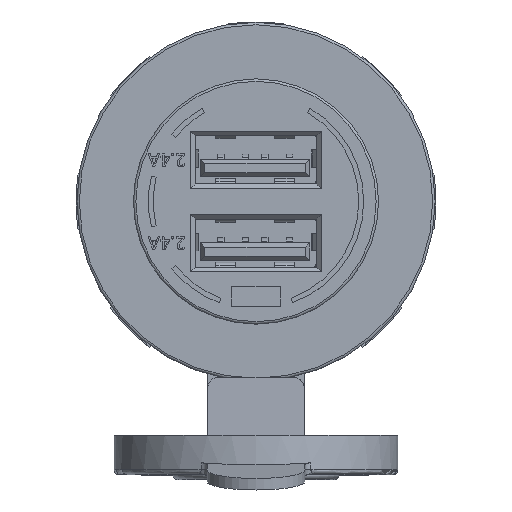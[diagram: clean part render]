
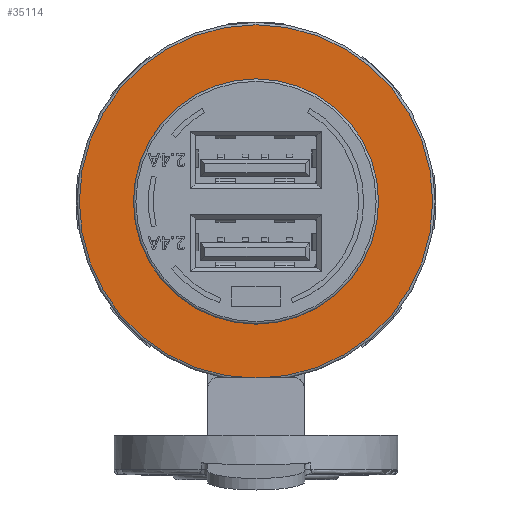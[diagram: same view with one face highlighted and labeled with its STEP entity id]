
A CAD part, top view. The second image highlights one B-rep face of the part: STEP entity #35114.
In plain terms, the highlighted planar face has unit normal (0, 0, 1) as drawn and (0, 0, -1) by its records, which use the part's own axes.
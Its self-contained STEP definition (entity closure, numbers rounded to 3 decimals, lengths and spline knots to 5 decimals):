
#962=FACE_BOUND('',#4695,.T.);
#1186=PLANE('',#37499);
#2671=FACE_OUTER_BOUND('',#4694,.T.);
#4694=EDGE_LOOP('',(#24707));
#4695=EDGE_LOOP('',(#24708));
#14790=CIRCLE('',#37445,0.71063);
#14791=CIRCLE('',#37447,0.49311);
#15586=VERTEX_POINT('',#49700);
#15587=VERTEX_POINT('',#49704);
#19047=EDGE_CURVE('',#15586,#15586,#14790,.T.);
#19048=EDGE_CURVE('',#15587,#15587,#14791,.T.);
#24707=ORIENTED_EDGE('',*,*,#19047,.T.);
#24708=ORIENTED_EDGE('',*,*,#19048,.F.);
#35114=ADVANCED_FACE('',(#2671,#962),#1186,.F.);
#37445=AXIS2_PLACEMENT_3D('',#49702,#40231,#40232);
#37447=AXIS2_PLACEMENT_3D('',#49705,#40235,#40236);
#37499=AXIS2_PLACEMENT_3D('',#51462,#40469,#40470);
#40231=DIRECTION('center_axis',(0.,0.,-1.));
#40232=DIRECTION('ref_axis',(1.,0.,0.));
#40235=DIRECTION('center_axis',(0.,0.,-1.));
#40236=DIRECTION('ref_axis',(1.,0.,0.));
#40469=DIRECTION('center_axis',(0.,0.,1.));
#40470=DIRECTION('ref_axis',(1.,0.,0.));
#49700=CARTESIAN_POINT('',(-0.71063,0.,0.01969));
#49702=CARTESIAN_POINT('Origin',(0.,0.,0.01969));
#49704=CARTESIAN_POINT('',(-0.49311,0.,0.01969));
#49705=CARTESIAN_POINT('Origin',(0.,0.,
0.01969));
#51462=CARTESIAN_POINT('Origin',(0.,0.,
0.01969));
